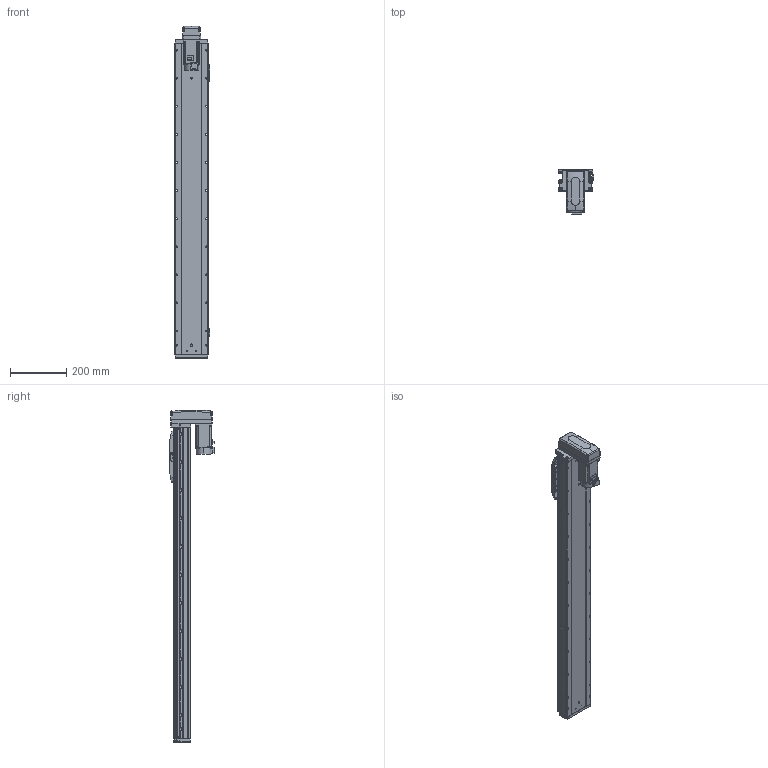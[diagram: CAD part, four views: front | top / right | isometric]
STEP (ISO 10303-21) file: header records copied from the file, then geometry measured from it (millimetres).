
FILE_DESCRIPTION (( 'STEP AP203' ), '1' );
FILE_NAME ('GTH12-900-BM-M40-C4.step', '2022-09-29T02:03:01', ( '微软用户' ), ( '微软中国' ), 'SwSTEP 2.0', 'SolidWorks 2020', '' );
FILE_SCHEMA (( 'CONFIG_CONTROL_DESIGN' ));
Length unit declared in the file: millimetre
Products named in the file (18): GTH120-001_900; GBT 70.3-M3℅8; hg-kn43j_-s100_; GTH120-003; GTH80-022; CTHA86-033_M40B; GTH120-006; GTH80-028; GTH120-027-1_GTH120-027-2; GTH120-004; GTH50-023; GTH12-900-BM-M40-C4; GTH120-013; GTH50-024; GBT 70.1-M3℅6; GBT96.1-2002 3×0.8; GBT 70.1-M5×16; BTH-M3X5X6
Assembly tree (59 placements, depth 2):
  GTH12-900-BM-M40-C4
    GTH120-001_900
    GTH120-003
    GTH120-006
    GTH120-004
    GTH120-013
    GBT 70.1-M3℅6  x14
    GBT 70.1-M5×16  x10
    GBT 70.3-M3℅8  x4
    GTH80-022
    GTH80-028  x2
    GTH50-023  x3
    GTH50-024  x3
    GBT96.1-2002 3×0.8  x6
    BTH-M3X5X6  x8
    hg-kn43j_-s100_
    CTHA86-033_M40B
    GTH120-027-1_GTH120-027-2
Bounding box: 125.7 x 159.8 x 1182 mm (x, y, z)
Volume: 8490404.3 mm3; surface area: 736387.1 mm2
Topology: 61 solids, 61 shells, 2520 faces, 5899 edges, 3621 vertices
Faces by surface type: plane 1286, cylinder 742, cone 304, torus 174, sphere 8, bspline 6
Entity records: 48009 total; most frequent: CARTESIAN_POINT 8170, DIRECTION 7971, ORIENTED_EDGE 7408, EDGE_CURVE 3704, AXIS2_PLACEMENT_3D 2787, LINE 2397, VECTOR 2397, VERTEX_POINT 2342
